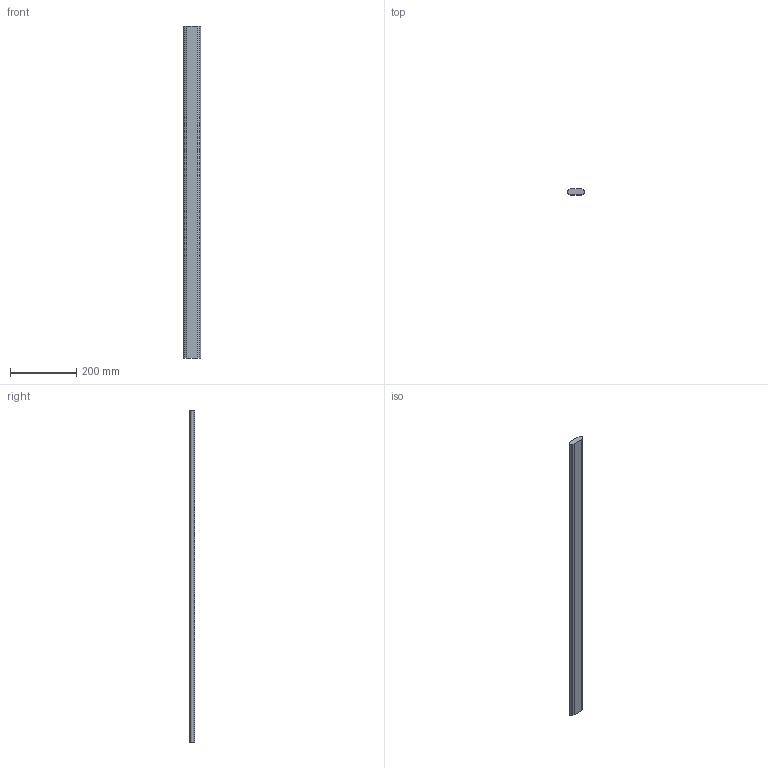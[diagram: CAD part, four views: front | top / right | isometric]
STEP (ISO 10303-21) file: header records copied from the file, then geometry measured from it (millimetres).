
FILE_DESCRIPTION (( 'STEP AP214' ), '1' );
FILE_NAME ('LFS52FK.STEP', '2020-05-11T09:17:45', ( '' ), ( '' ), 'SwSTEP 2.0', 'SolidWorks 2019', '' );
FILE_SCHEMA (( 'AUTOMOTIVE_DESIGN' ));
Length unit declared in the file: millimetre
Products named in the file (1): LFS52FK
Bounding box: 51.96 x 18 x 1000 mm (x, y, z)
Volume: 819336.1 mm3; surface area: 124100.4 mm2
Topology: 1 solids, 1 shells, 18 faces, 48 edges, 32 vertices
Faces by surface type: cylinder 10, plane 8
Entity records: 606 total; most frequent: DIRECTION 106, CARTESIAN_POINT 99, ORIENTED_EDGE 96, EDGE_CURVE 48, AXIS2_PLACEMENT_3D 39, VERTEX_POINT 32, VECTOR 28, LINE 28
